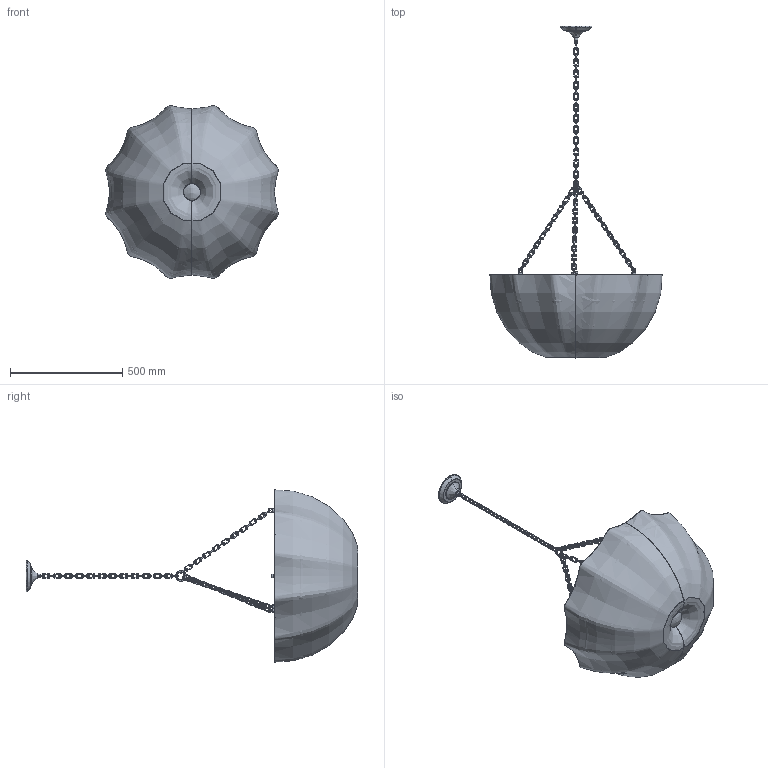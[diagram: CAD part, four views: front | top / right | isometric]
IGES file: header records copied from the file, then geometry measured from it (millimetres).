
Start section: SolidWorks IGES file using analytic representation for surfaces
Global section: file name: F:\燠隴矨\3D\2025-10\Aldwin Pendant Lamp-D80cm.IGS,15; native system: HSolidWorks 2022; preprocessor: SolidWorks 2022; author: MyPC; date: 251014.101819; units: millimetre
Bounding box: 767.54 x 1478.75 x 767.57 mm (x, y, z)
Surface area: 2245256 mm2 (no closed solid volume)
Topology: 0 solids, 0 shells, 1732 faces, 12746 edges, 12741 vertices
Faces by surface type: revolution 940, bspline 792
